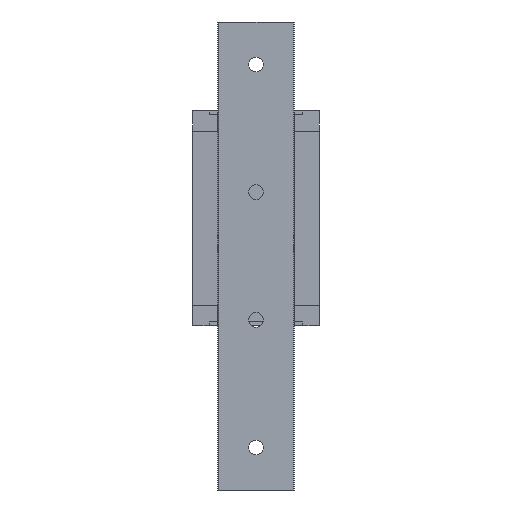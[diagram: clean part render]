
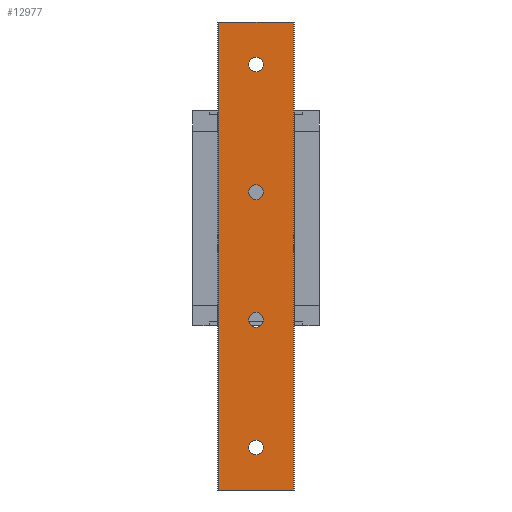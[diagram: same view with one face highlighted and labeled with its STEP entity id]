
A CAD part, front view. The second image highlights one B-rep face of the part: STEP entity #12977.
In plain terms, the highlighted planar face has unit normal (0, -1, 0).
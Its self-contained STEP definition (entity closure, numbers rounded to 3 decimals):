
#177 = VECTOR ( 'NONE', #2436, 1000. ) ;
#205 = ORIENTED_EDGE ( 'NONE', *, *, #6148, .T. ) ;
#248 = CARTESIAN_POINT ( 'NONE',  ( -8.7, 0., 0. ) ) ;
#338 = FACE_BOUND ( 'NONE', #5450, .T. ) ;
#431 = VERTEX_POINT ( 'NONE', #2084 ) ;
#445 = DIRECTION ( 'NONE',  ( 0., 0., 1. ) ) ;
#518 = VERTEX_POINT ( 'NONE', #11615 ) ;
#561 = AXIS2_PLACEMENT_3D ( 'NONE', #11059, #12164, #2738 ) ;
#768 = CARTESIAN_POINT ( 'NONE',  ( 0., 0., 71.75 ) ) ;
#902 = VERTEX_POINT ( 'NONE', #13080 ) ;
#1083 = ORIENTED_EDGE ( 'NONE', *, *, #9083, .T. ) ;
#1331 = ORIENTED_EDGE ( 'NONE', *, *, #8034, .T. ) ;
#1345 = DIRECTION ( 'NONE',  ( 1., 0., 0. ) ) ;
#1391 = CARTESIAN_POINT ( 'NONE',  ( 0., 0., 101.75 ) ) ;
#1601 = EDGE_CURVE ( 'NONE', #10482, #9839, #13541, .T. ) ;
#1777 = CIRCLE ( 'NONE', #561, 1.75 ) ;
#1804 = CIRCLE ( 'NONE', #4797, 1.75 ) ;
#1828 = ORIENTED_EDGE ( 'NONE', *, *, #6771, .T. ) ;
#1877 = ORIENTED_EDGE ( 'NONE', *, *, #5208, .T. ) ;
#2068 = EDGE_LOOP ( 'NONE', ( #7910, #8694 ) ) ;
#2084 = CARTESIAN_POINT ( 'NONE',  ( 0., 0., 11.75 ) ) ;
#2389 = CIRCLE ( 'NONE', #3362, 1.75 ) ;
#2391 = DIRECTION ( 'NONE',  ( 0., 1., 0. ) ) ;
#2436 = DIRECTION ( 'NONE',  ( 0., 0., -1. ) ) ;
#2496 = CIRCLE ( 'NONE', #11964, 1.75 ) ;
#2533 = AXIS2_PLACEMENT_3D ( 'NONE', #8980, #11090, #3813 ) ;
#2730 = DIRECTION ( 'NONE',  ( 0., 0., 1. ) ) ;
#2738 = DIRECTION ( 'NONE',  ( 0., 0., 1. ) ) ;
#3097 = ORIENTED_EDGE ( 'NONE', *, *, #8375, .T. ) ;
#3142 = CIRCLE ( 'NONE', #12835, 1.75 ) ;
#3362 = AXIS2_PLACEMENT_3D ( 'NONE', #11812, #2391, #445 ) ;
#3446 = AXIS2_PLACEMENT_3D ( 'NONE', #11519, #4178, #5246 ) ;
#3727 = LINE ( 'NONE', #4469, #8276 ) ;
#3766 = LINE ( 'NONE', #5332, #7669 ) ;
#3813 = DIRECTION ( 'NONE',  ( 0., 0., 1. ) ) ;
#4023 = CARTESIAN_POINT ( 'NONE',  ( 0., 0., 68.25 ) ) ;
#4056 = EDGE_CURVE ( 'NONE', #518, #902, #12509, .T. ) ;
#4125 = VERTEX_POINT ( 'NONE', #8778 ) ;
#4178 = DIRECTION ( 'NONE',  ( 0., 1., 0. ) ) ;
#4292 = DIRECTION ( 'NONE',  ( 0., 1., 0. ) ) ;
#4469 = CARTESIAN_POINT ( 'NONE',  ( -8.7, 0., 110. ) ) ;
#4582 = DIRECTION ( 'NONE',  ( 0., 0., 1. ) ) ;
#4797 = AXIS2_PLACEMENT_3D ( 'NONE', #10735, #4292, #5525 ) ;
#4985 = VECTOR ( 'NONE', #6729, 1000. ) ;
#5208 = EDGE_CURVE ( 'NONE', #7049, #431, #3142, .T. ) ;
#5246 = DIRECTION ( 'NONE',  ( 0., 0., 1. ) ) ;
#5327 = EDGE_CURVE ( 'NONE', #431, #7049, #2496, .T. ) ;
#5332 = CARTESIAN_POINT ( 'NONE',  ( -8.7, 0., 0. ) ) ;
#5391 = EDGE_LOOP ( 'NONE', ( #10320, #1877 ) ) ;
#5450 = EDGE_LOOP ( 'NONE', ( #3097, #1331 ) ) ;
#5525 = DIRECTION ( 'NONE',  ( 0., 0., 1. ) ) ;
#5579 = CARTESIAN_POINT ( 'NONE',  ( -8.7, 0., 110. ) ) ;
#5835 = CARTESIAN_POINT ( 'NONE',  ( 0., 0., 40. ) ) ;
#5872 = FACE_BOUND ( 'NONE', #2068, .T. ) ;
#6009 = CARTESIAN_POINT ( 'NONE',  ( 0., 0., 98.25 ) ) ;
#6148 = EDGE_CURVE ( 'NONE', #10855, #902, #3766, .T. ) ;
#6192 = FACE_OUTER_BOUND ( 'NONE', #9045, .T. ) ;
#6414 = ORIENTED_EDGE ( 'NONE', *, *, #1601, .T. ) ;
#6586 = VERTEX_POINT ( 'NONE', #9403 ) ;
#6614 = EDGE_CURVE ( 'NONE', #4125, #6586, #1804, .T. ) ;
#6729 = DIRECTION ( 'NONE',  ( 0., 0., -1. ) ) ;
#6771 = EDGE_CURVE ( 'NONE', #6951, #10855, #11759, .T. ) ;
#6951 = VERTEX_POINT ( 'NONE', #7889 ) ;
#7049 = VERTEX_POINT ( 'NONE', #8161 ) ;
#7351 = CARTESIAN_POINT ( 'NONE',  ( 0., 0., 10. ) ) ;
#7545 = DIRECTION ( 'NONE',  ( 0., 1., 0. ) ) ;
#7669 = VECTOR ( 'NONE', #1345, 1000. ) ;
#7774 = AXIS2_PLACEMENT_3D ( 'NONE', #11822, #7545, #4582 ) ;
#7825 = DIRECTION ( 'NONE',  ( 0., 1., 0. ) ) ;
#7889 = CARTESIAN_POINT ( 'NONE',  ( -8.7, 0., 110. ) ) ;
#7902 = EDGE_CURVE ( 'NONE', #6951, #518, #3727, .T. ) ;
#7910 = ORIENTED_EDGE ( 'NONE', *, *, #13299, .T. ) ;
#8034 = EDGE_CURVE ( 'NONE', #13378, #10749, #1777, .T. ) ;
#8038 = DIRECTION ( 'NONE',  ( 0., 0., 1. ) ) ;
#8085 = DIRECTION ( 'NONE',  ( 0., 1., 0. ) ) ;
#8161 = CARTESIAN_POINT ( 'NONE',  ( 0., 0., 8.25 ) ) ;
#8276 = VECTOR ( 'NONE', #9619, 1000. ) ;
#8375 = EDGE_CURVE ( 'NONE', #10749, #13378, #11399, .T. ) ;
#8694 = ORIENTED_EDGE ( 'NONE', *, *, #6614, .T. ) ;
#8778 = CARTESIAN_POINT ( 'NONE',  ( 0., 0., 38.25 ) ) ;
#8802 = FACE_BOUND ( 'NONE', #5391, .T. ) ;
#8980 = CARTESIAN_POINT ( 'NONE',  ( 0., 0., 70. ) ) ;
#9045 = EDGE_LOOP ( 'NONE', ( #205, #12891, #11587, #1828 ) ) ;
#9083 = EDGE_CURVE ( 'NONE', #9839, #10482, #2389, .T. ) ;
#9403 = CARTESIAN_POINT ( 'NONE',  ( 0., 0., 41.75 ) ) ;
#9619 = DIRECTION ( 'NONE',  ( 1., 0., 0. ) ) ;
#9839 = VERTEX_POINT ( 'NONE', #4023 ) ;
#10320 = ORIENTED_EDGE ( 'NONE', *, *, #5327, .T. ) ;
#10482 = VERTEX_POINT ( 'NONE', #768 ) ;
#10616 = AXIS2_PLACEMENT_3D ( 'NONE', #5835, #7825, #2730 ) ;
#10735 = CARTESIAN_POINT ( 'NONE',  ( 0., 0., 40. ) ) ;
#10749 = VERTEX_POINT ( 'NONE', #1391 ) ;
#10766 = FACE_BOUND ( 'NONE', #12173, .T. ) ;
#10855 = VERTEX_POINT ( 'NONE', #248 ) ;
#11059 = CARTESIAN_POINT ( 'NONE',  ( 0., 0., 100. ) ) ;
#11084 = CIRCLE ( 'NONE', #10616, 1.75 ) ;
#11090 = DIRECTION ( 'NONE',  ( 0., 1., 0. ) ) ;
#11399 = CIRCLE ( 'NONE', #7774, 1.75 ) ;
#11490 = DIRECTION ( 'NONE',  ( 0., 1., 0. ) ) ;
#11519 = CARTESIAN_POINT ( 'NONE',  ( -8.7, 0., 110. ) ) ;
#11587 = ORIENTED_EDGE ( 'NONE', *, *, #7902, .F. ) ;
#11615 = CARTESIAN_POINT ( 'NONE',  ( 8.7, 0., 110. ) ) ;
#11759 = LINE ( 'NONE', #5579, #177 ) ;
#11812 = CARTESIAN_POINT ( 'NONE',  ( 0., 0., 70. ) ) ;
#11822 = CARTESIAN_POINT ( 'NONE',  ( 0., 0., 100. ) ) ;
#11868 = CARTESIAN_POINT ( 'NONE',  ( 8.7, 0., 110. ) ) ;
#11964 = AXIS2_PLACEMENT_3D ( 'NONE', #7351, #11490, #13503 ) ;
#12164 = DIRECTION ( 'NONE',  ( 0., 1., 0. ) ) ;
#12173 = EDGE_LOOP ( 'NONE', ( #6414, #1083 ) ) ;
#12509 = LINE ( 'NONE', #11868, #4985 ) ;
#12835 = AXIS2_PLACEMENT_3D ( 'NONE', #13272, #8085, #8038 ) ;
#12891 = ORIENTED_EDGE ( 'NONE', *, *, #4056, .F. ) ;
#12977 = ADVANCED_FACE ( 'NONE', ( #10766, #338, #6192, #5872, #8802 ), #13526, .F. ) ;
#13080 = CARTESIAN_POINT ( 'NONE',  ( 8.7, 0., 0. ) ) ;
#13272 = CARTESIAN_POINT ( 'NONE',  ( 0., 0., 10. ) ) ;
#13299 = EDGE_CURVE ( 'NONE', #6586, #4125, #11084, .T. ) ;
#13378 = VERTEX_POINT ( 'NONE', #6009 ) ;
#13503 = DIRECTION ( 'NONE',  ( 0., 0., 1. ) ) ;
#13526 = PLANE ( 'NONE',  #3446 ) ;
#13541 = CIRCLE ( 'NONE', #2533, 1.75 ) ;
